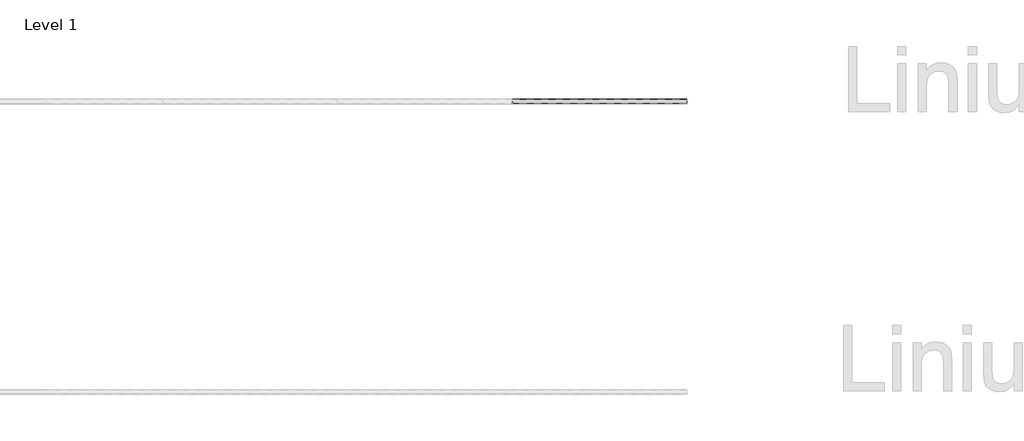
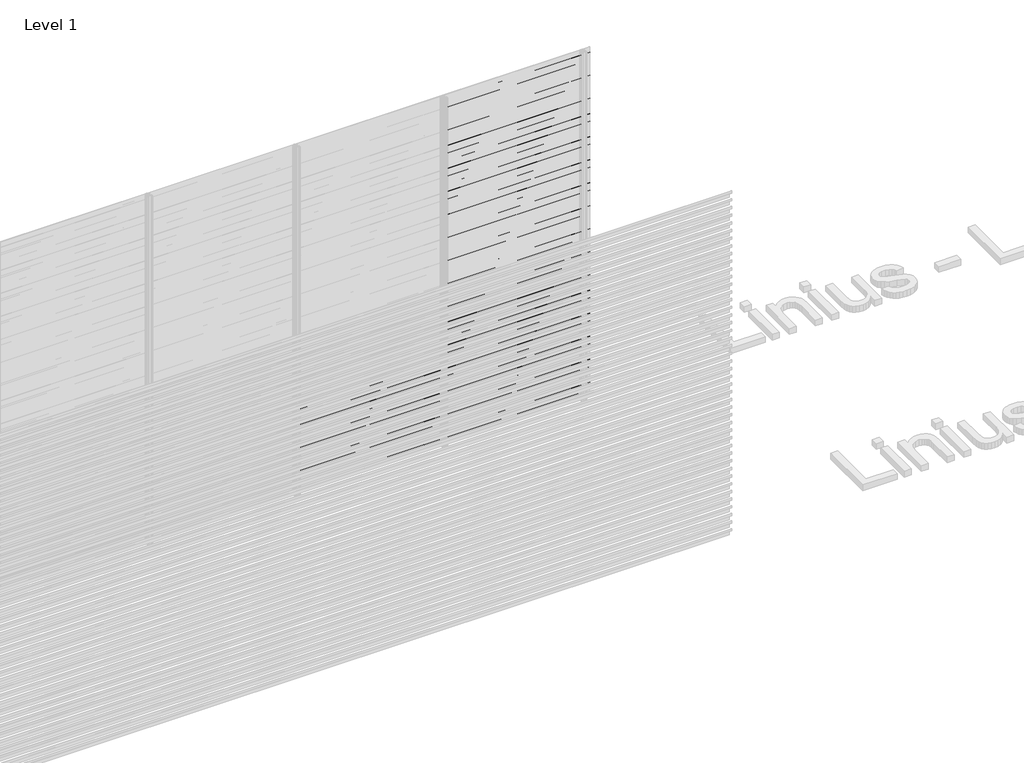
# One storey, part 61 of 540: 56 proxies.
"""IFC4 building model written with IfcOpenShell, lengths in millimetres."""

from ifc_helpers import new_model, si_unit, frame, origin, place, context, project, spatial, polyline, outline, extrude, element, save

model = new_model("IFC4")

# Units and contexts
model_context = context("Model", 3, world=origin())
ifc_project = project(units=[si_unit("LENGTHUNIT", "METRE", prefix="MILLI")], contexts=[model_context])

# Site, building, storey
site = spatial("IfcSite", under=ifc_project)
building = spatial("IfcBuilding", under=site)
storey = spatial("IfcBuildingStorey", under=building, Name="Level 1", Elevation=0.0)

# Proxies
placement = place(None, origin())
element("IfcBuildingElementProxy", 1, Name="Wall Sweeps", at=placement, inside=storey, context=model_context, shape_type="SweptSolid", body=[
    extrude(outline(polyline([(21552.8040136, 686.0), (21552.8040136, 653.0), (21551.5540136, 653.7216933), (21551.5540136, 685.2872415), (21521.8040136, 706.0588647), (21521.8040136, 726.0), (21523.0540136, 726.0), (21523.0540136, 706.7716232), (21552.8040136, 686.0)])), frame((48566.6208097, 0.0, 0.0), z_axis=(1.0, 0.0, 0.0), x_axis=(0.0, 1.0, 0.0)), (0.0, 0.0, 1.0), 1200.0),
])
element("IfcBuildingElementProxy", 2, Name="Wall Sweeps", at=placement, inside=storey, context=model_context, shape_type="SweptSolid", body=[
    extrude(outline(polyline([(21552.8040136, 620.0), (21552.8040136, 587.0), (21551.5540136, 587.7216933), (21551.5540136, 619.2872415), (21521.8040136, 640.0588647), (21521.8040136, 660.0), (21523.0540136, 660.0), (21523.0540136, 640.7716232), (21552.8040136, 620.0)])), frame((48566.6208097, 0.0, 0.0), z_axis=(1.0, 0.0, 0.0), x_axis=(0.0, 1.0, 0.0)), (0.0, 0.0, 1.0), 1200.0),
])
element("IfcBuildingElementProxy", 3, Name="Wall Sweeps", at=placement, inside=storey, context=model_context, shape_type="SweptSolid", body=[
    extrude(outline(polyline([(21552.8040136, 554.0), (21552.8040136, 521.0), (21551.5540136, 521.7216933), (21551.5540136, 553.2872415), (21521.8040136, 574.0588647), (21521.8040136, 594.0), (21523.0540136, 594.0), (21523.0540136, 574.7716232), (21552.8040136, 554.0)])), frame((48566.6208097, 0.0, 0.0), z_axis=(1.0, 0.0, 0.0), x_axis=(0.0, 1.0, 0.0)), (0.0, 0.0, 1.0), 1200.0),
])
element("IfcBuildingElementProxy", 4, Name="Wall Sweeps", at=placement, inside=storey, context=model_context, shape_type="SweptSolid", body=[
    extrude(outline(polyline([(21552.8040136, 488.0), (21552.8040136, 455.0), (21551.5540136, 455.7216933), (21551.5540136, 487.2872415), (21521.8040136, 508.0588647), (21521.8040136, 528.0), (21523.0540136, 528.0), (21523.0540136, 508.7716232), (21552.8040136, 488.0)])), frame((48566.6208097, 0.0, 0.0), z_axis=(1.0, 0.0, 0.0), x_axis=(0.0, 1.0, 0.0)), (0.0, 0.0, 1.0), 1200.0),
])
element("IfcBuildingElementProxy", 5, Name="Wall Sweeps", at=placement, inside=storey, context=model_context, shape_type="SweptSolid", body=[
    extrude(outline(polyline([(21552.8040136, 422.0), (21552.8040136, 389.0), (21551.5540136, 389.7216933), (21551.5540136, 421.2872415), (21521.8040136, 442.0588647), (21521.8040136, 462.0), (21523.0540136, 462.0), (21523.0540136, 442.7716232), (21552.8040136, 422.0)])), frame((48566.6208097, 0.0, 0.0), z_axis=(1.0, 0.0, 0.0), x_axis=(0.0, 1.0, 0.0)), (0.0, 0.0, 1.0), 1200.0),
])
element("IfcBuildingElementProxy", 6, Name="Wall Sweeps", at=placement, inside=storey, context=model_context, shape_type="SweptSolid", body=[
    extrude(outline(polyline([(21552.8040136, 356.0), (21552.8040136, 323.0), (21551.5540136, 323.7216933), (21551.5540136, 355.2872415), (21521.8040136, 376.0588647), (21521.8040136, 396.0), (21523.0540136, 396.0), (21523.0540136, 376.7716232), (21552.8040136, 356.0)])), frame((48566.6208097, 0.0, 0.0), z_axis=(1.0, 0.0, 0.0), x_axis=(0.0, 1.0, 0.0)), (0.0, 0.0, 1.0), 1200.0),
])
element("IfcBuildingElementProxy", 7, Name="Wall Sweeps", at=placement, inside=storey, context=model_context, shape_type="SweptSolid", body=[
    extrude(outline(polyline([(21552.8040136, 290.0), (21552.8040136, 257.0), (21551.5540136, 257.7216933), (21551.5540136, 289.2872415), (21521.8040136, 310.0588647), (21521.8040136, 330.0), (21523.0540136, 330.0), (21523.0540136, 310.7716232), (21552.8040136, 290.0)])), frame((48566.6208097, 0.0, 0.0), z_axis=(1.0, 0.0, 0.0), x_axis=(0.0, 1.0, 0.0)), (0.0, 0.0, 1.0), 1200.0),
])
element("IfcBuildingElementProxy", 8, Name="Wall Sweeps", at=placement, inside=storey, context=model_context, shape_type="SweptSolid", body=[
    extrude(outline(polyline([(21552.8040136, 224.0), (21552.8040136, 191.0), (21551.5540136, 191.7216933), (21551.5540136, 223.2872415), (21521.8040136, 244.0588647), (21521.8040136, 264.0), (21523.0540136, 264.0), (21523.0540136, 244.7716232), (21552.8040136, 224.0)])), frame((48566.6208097, 0.0, 0.0), z_axis=(1.0, 0.0, 0.0), x_axis=(0.0, 1.0, 0.0)), (0.0, 0.0, 1.0), 1200.0),
])
element("IfcBuildingElementProxy", 9, Name="Wall Sweeps", at=placement, inside=storey, context=model_context, shape_type="SweptSolid", body=[
    extrude(outline(polyline([(21552.8040136, 158.0), (21552.8040136, 125.0), (21551.5540136, 125.7216933), (21551.5540136, 157.2872415), (21521.8040136, 178.0588647), (21521.8040136, 198.0), (21523.0540136, 198.0), (21523.0540136, 178.7716232), (21552.8040136, 158.0)])), frame((48566.6208097, 0.0, 0.0), z_axis=(1.0, 0.0, 0.0), x_axis=(0.0, 1.0, 0.0)), (0.0, 0.0, 1.0), 1200.0),
])
element("IfcBuildingElementProxy", 10, Name="Wall Sweeps", at=placement, inside=storey, context=model_context, shape_type="SweptSolid", body=[
    extrude(outline(polyline([(21552.8040136, 92.0), (21552.8040136, 59.0), (21551.5540136, 59.7216933), (21551.5540136, 91.2872415), (21521.8040136, 112.0588647), (21521.8040136, 132.0), (21523.0540136, 132.0), (21523.0540136, 112.7716232), (21552.8040136, 92.0)])), frame((48566.6208097, 0.0, 0.0), z_axis=(1.0, 0.0, 0.0), x_axis=(0.0, 1.0, 0.0)), (0.0, 0.0, 1.0), 1200.0),
])
element("IfcBuildingElementProxy", 11, Name="Wall Sweeps", at=placement, inside=storey, context=model_context, shape_type="SweptSolid", body=[
    extrude(outline(polyline([(21552.8040136, 26.0), (21552.8040136, -7.0), (21551.5540136, -6.2783067), (21551.5540136, 25.2872415), (21521.8040136, 46.0588647), (21521.8040136, 66.0), (21523.0540136, 66.0), (21523.0540136, 46.7716232), (21552.8040136, 26.0)])), frame((48566.6208097, 0.0, 0.0), z_axis=(1.0, 0.0, 0.0), x_axis=(0.0, 1.0, 0.0)), (0.0, 0.0, 1.0), 1200.0),
])
element("IfcBuildingElementProxy", 12, Name="Wall Sweeps", at=placement, inside=storey, context=model_context, shape_type="SweptSolid", body=[
    extrude(outline(polyline([(21552.8040136, 2930.0), (21552.8040136, 2897.0), (21551.5540136, 2897.7216933), (21551.5540136, 2929.2872415), (21521.8040136, 2950.0588647), (21521.8040136, 2970.0), (21523.0540136, 2970.0), (21523.0540136, 2950.7716232), (21552.8040136, 2930.0)])), frame((49766.6208097, 0.0, 0.0), z_axis=(1.0, 0.0, 0.0), x_axis=(0.0, 1.0, 0.0)), (0.0, 0.0, 1.0), 1200.0),
])
element("IfcBuildingElementProxy", 13, Name="Wall Sweeps", at=placement, inside=storey, context=model_context, shape_type="SweptSolid", body=[
    extrude(outline(polyline([(21552.8040136, 2864.0), (21552.8040136, 2831.0), (21551.5540136, 2831.7216933), (21551.5540136, 2863.2872415), (21521.8040136, 2884.0588647), (21521.8040136, 2904.0), (21523.0540136, 2904.0), (21523.0540136, 2884.7716232), (21552.8040136, 2864.0)])), frame((49766.6208097, 0.0, 0.0), z_axis=(1.0, 0.0, 0.0), x_axis=(0.0, 1.0, 0.0)), (0.0, 0.0, 1.0), 1200.0),
])
element("IfcBuildingElementProxy", 14, Name="Wall Sweeps", at=placement, inside=storey, context=model_context, shape_type="SweptSolid", body=[
    extrude(outline(polyline([(21552.8040136, 2798.0), (21552.8040136, 2765.0), (21551.5540136, 2765.7216933), (21551.5540136, 2797.2872415), (21521.8040136, 2818.0588647), (21521.8040136, 2838.0), (21523.0540136, 2838.0), (21523.0540136, 2818.7716232), (21552.8040136, 2798.0)])), frame((49766.6208097, 0.0, 0.0), z_axis=(1.0, 0.0, 0.0), x_axis=(0.0, 1.0, 0.0)), (0.0, 0.0, 1.0), 1200.0),
])
element("IfcBuildingElementProxy", 15, Name="Wall Sweeps", at=placement, inside=storey, context=model_context, shape_type="SweptSolid", body=[
    extrude(outline(polyline([(21552.8040136, 2732.0), (21552.8040136, 2699.0), (21551.5540136, 2699.7216933), (21551.5540136, 2731.2872415), (21521.8040136, 2752.0588647), (21521.8040136, 2772.0), (21523.0540136, 2772.0), (21523.0540136, 2752.7716232), (21552.8040136, 2732.0)])), frame((49766.6208097, 0.0, 0.0), z_axis=(1.0, 0.0, 0.0), x_axis=(0.0, 1.0, 0.0)), (0.0, 0.0, 1.0), 1200.0),
])
element("IfcBuildingElementProxy", 16, Name="Wall Sweeps", at=placement, inside=storey, context=model_context, shape_type="SweptSolid", body=[
    extrude(outline(polyline([(21552.8040136, 2666.0), (21552.8040136, 2633.0), (21551.5540136, 2633.7216933), (21551.5540136, 2665.2872415), (21521.8040136, 2686.0588647), (21521.8040136, 2706.0), (21523.0540136, 2706.0), (21523.0540136, 2686.7716232), (21552.8040136, 2666.0)])), frame((49766.6208097, 0.0, 0.0), z_axis=(1.0, 0.0, 0.0), x_axis=(0.0, 1.0, 0.0)), (0.0, 0.0, 1.0), 1200.0),
])
element("IfcBuildingElementProxy", 17, Name="Wall Sweeps", at=placement, inside=storey, context=model_context, shape_type="SweptSolid", body=[
    extrude(outline(polyline([(21552.8040136, 2600.0), (21552.8040136, 2567.0), (21551.5540136, 2567.7216933), (21551.5540136, 2599.2872415), (21521.8040136, 2620.0588647), (21521.8040136, 2640.0), (21523.0540136, 2640.0), (21523.0540136, 2620.7716232), (21552.8040136, 2600.0)])), frame((49766.6208097, 0.0, 0.0), z_axis=(1.0, 0.0, 0.0), x_axis=(0.0, 1.0, 0.0)), (0.0, 0.0, 1.0), 1200.0),
])
element("IfcBuildingElementProxy", 18, Name="Wall Sweeps", at=placement, inside=storey, context=model_context, shape_type="SweptSolid", body=[
    extrude(outline(polyline([(21552.8040136, 2534.0), (21552.8040136, 2501.0), (21551.5540136, 2501.7216933), (21551.5540136, 2533.2872415), (21521.8040136, 2554.0588647), (21521.8040136, 2574.0), (21523.0540136, 2574.0), (21523.0540136, 2554.7716232), (21552.8040136, 2534.0)])), frame((49766.6208097, 0.0, 0.0), z_axis=(1.0, 0.0, 0.0), x_axis=(0.0, 1.0, 0.0)), (0.0, 0.0, 1.0), 1200.0),
])
element("IfcBuildingElementProxy", 19, Name="Wall Sweeps", at=placement, inside=storey, context=model_context, shape_type="SweptSolid", body=[
    extrude(outline(polyline([(21552.8040136, 2468.0), (21552.8040136, 2435.0), (21551.5540136, 2435.7216933), (21551.5540136, 2467.2872415), (21521.8040136, 2488.0588647), (21521.8040136, 2508.0), (21523.0540136, 2508.0), (21523.0540136, 2488.7716232), (21552.8040136, 2468.0)])), frame((49766.6208097, 0.0, 0.0), z_axis=(1.0, 0.0, 0.0), x_axis=(0.0, 1.0, 0.0)), (0.0, 0.0, 1.0), 1200.0),
])
element("IfcBuildingElementProxy", 20, Name="Wall Sweeps", at=placement, inside=storey, context=model_context, shape_type="SweptSolid", body=[
    extrude(outline(polyline([(21552.8040136, 2402.0), (21552.8040136, 2369.0), (21551.5540136, 2369.7216933), (21551.5540136, 2401.2872415), (21521.8040136, 2422.0588647), (21521.8040136, 2442.0), (21523.0540136, 2442.0), (21523.0540136, 2422.7716232), (21552.8040136, 2402.0)])), frame((49766.6208097, 0.0, 0.0), z_axis=(1.0, 0.0, 0.0), x_axis=(0.0, 1.0, 0.0)), (0.0, 0.0, 1.0), 1200.0),
])
element("IfcBuildingElementProxy", 21, Name="Wall Sweeps", at=placement, inside=storey, context=model_context, shape_type="SweptSolid", body=[
    extrude(outline(polyline([(21552.8040136, 2336.0), (21552.8040136, 2303.0), (21551.5540136, 2303.7216933), (21551.5540136, 2335.2872415), (21521.8040136, 2356.0588647), (21521.8040136, 2376.0), (21523.0540136, 2376.0), (21523.0540136, 2356.7716232), (21552.8040136, 2336.0)])), frame((49766.6208097, 0.0, 0.0), z_axis=(1.0, 0.0, 0.0), x_axis=(0.0, 1.0, 0.0)), (0.0, 0.0, 1.0), 1200.0),
])
element("IfcBuildingElementProxy", 22, Name="Wall Sweeps", at=placement, inside=storey, context=model_context, shape_type="SweptSolid", body=[
    extrude(outline(polyline([(21552.8040136, 2270.0), (21552.8040136, 2237.0), (21551.5540136, 2237.7216933), (21551.5540136, 2269.2872415), (21521.8040136, 2290.0588647), (21521.8040136, 2310.0), (21523.0540136, 2310.0), (21523.0540136, 2290.7716232), (21552.8040136, 2270.0)])), frame((49766.6208097, 0.0, 0.0), z_axis=(1.0, 0.0, 0.0), x_axis=(0.0, 1.0, 0.0)), (0.0, 0.0, 1.0), 1200.0),
])
element("IfcBuildingElementProxy", 23, Name="Wall Sweeps", at=placement, inside=storey, context=model_context, shape_type="SweptSolid", body=[
    extrude(outline(polyline([(21552.8040136, 2204.0), (21552.8040136, 2171.0), (21551.5540136, 2171.7216933), (21551.5540136, 2203.2872415), (21521.8040136, 2224.0588647), (21521.8040136, 2244.0), (21523.0540136, 2244.0), (21523.0540136, 2224.7716232), (21552.8040136, 2204.0)])), frame((49766.6208097, 0.0, 0.0), z_axis=(1.0, 0.0, 0.0), x_axis=(0.0, 1.0, 0.0)), (0.0, 0.0, 1.0), 1200.0),
])
element("IfcBuildingElementProxy", 24, Name="Wall Sweeps", at=placement, inside=storey, context=model_context, shape_type="SweptSolid", body=[
    extrude(outline(polyline([(21552.8040136, 2138.0), (21552.8040136, 2105.0), (21551.5540136, 2105.7216933), (21551.5540136, 2137.2872415), (21521.8040136, 2158.0588647), (21521.8040136, 2178.0), (21523.0540136, 2178.0), (21523.0540136, 2158.7716232), (21552.8040136, 2138.0)])), frame((49766.6208097, 0.0, 0.0), z_axis=(1.0, 0.0, 0.0), x_axis=(0.0, 1.0, 0.0)), (0.0, 0.0, 1.0), 1200.0),
])
element("IfcBuildingElementProxy", 25, Name="Wall Sweeps", at=placement, inside=storey, context=model_context, shape_type="SweptSolid", body=[
    extrude(outline(polyline([(21552.8040136, 2072.0), (21552.8040136, 2039.0), (21551.5540136, 2039.7216933), (21551.5540136, 2071.2872415), (21521.8040136, 2092.0588647), (21521.8040136, 2112.0), (21523.0540136, 2112.0), (21523.0540136, 2092.7716232), (21552.8040136, 2072.0)])), frame((49766.6208097, 0.0, 0.0), z_axis=(1.0, 0.0, 0.0), x_axis=(0.0, 1.0, 0.0)), (0.0, 0.0, 1.0), 1200.0),
])
element("IfcBuildingElementProxy", 26, Name="Wall Sweeps", at=placement, inside=storey, context=model_context, shape_type="SweptSolid", body=[
    extrude(outline(polyline([(21552.8040136, 2006.0), (21552.8040136, 1973.0), (21551.5540136, 1973.7216933), (21551.5540136, 2005.2872415), (21521.8040136, 2026.0588647), (21521.8040136, 2046.0), (21523.0540136, 2046.0), (21523.0540136, 2026.7716232), (21552.8040136, 2006.0)])), frame((49766.6208097, 0.0, 0.0), z_axis=(1.0, 0.0, 0.0), x_axis=(0.0, 1.0, 0.0)), (0.0, 0.0, 1.0), 1200.0),
])
element("IfcBuildingElementProxy", 27, Name="Wall Sweeps", at=placement, inside=storey, context=model_context, shape_type="SweptSolid", body=[
    extrude(outline(polyline([(21552.8040136, 1940.0), (21552.8040136, 1907.0), (21551.5540136, 1907.7216933), (21551.5540136, 1939.2872415), (21521.8040136, 1960.0588647), (21521.8040136, 1980.0), (21523.0540136, 1980.0), (21523.0540136, 1960.7716232), (21552.8040136, 1940.0)])), frame((49766.6208097, 0.0, 0.0), z_axis=(1.0, 0.0, 0.0), x_axis=(0.0, 1.0, 0.0)), (0.0, 0.0, 1.0), 1200.0),
])
element("IfcBuildingElementProxy", 28, Name="Wall Sweeps", at=placement, inside=storey, context=model_context, shape_type="SweptSolid", body=[
    extrude(outline(polyline([(21552.8040136, 1874.0), (21552.8040136, 1841.0), (21551.5540136, 1841.7216933), (21551.5540136, 1873.2872415), (21521.8040136, 1894.0588647), (21521.8040136, 1914.0), (21523.0540136, 1914.0), (21523.0540136, 1894.7716232), (21552.8040136, 1874.0)])), frame((49766.6208097, 0.0, 0.0), z_axis=(1.0, 0.0, 0.0), x_axis=(0.0, 1.0, 0.0)), (0.0, 0.0, 1.0), 1200.0),
])
element("IfcBuildingElementProxy", 29, Name="Wall Sweeps", at=placement, inside=storey, context=model_context, shape_type="SweptSolid", body=[
    extrude(outline(polyline([(21552.8040136, 1808.0), (21552.8040136, 1775.0), (21551.5540136, 1775.7216933), (21551.5540136, 1807.2872415), (21521.8040136, 1828.0588647), (21521.8040136, 1848.0), (21523.0540136, 1848.0), (21523.0540136, 1828.7716232), (21552.8040136, 1808.0)])), frame((49766.6208097, 0.0, 0.0), z_axis=(1.0, 0.0, 0.0), x_axis=(0.0, 1.0, 0.0)), (0.0, 0.0, 1.0), 1200.0),
])
element("IfcBuildingElementProxy", 30, Name="Wall Sweeps", at=placement, inside=storey, context=model_context, shape_type="SweptSolid", body=[
    extrude(outline(polyline([(21552.8040136, 1742.0), (21552.8040136, 1709.0), (21551.5540136, 1709.7216933), (21551.5540136, 1741.2872415), (21521.8040136, 1762.0588647), (21521.8040136, 1782.0), (21523.0540136, 1782.0), (21523.0540136, 1762.7716232), (21552.8040136, 1742.0)])), frame((49766.6208097, 0.0, 0.0), z_axis=(1.0, 0.0, 0.0), x_axis=(0.0, 1.0, 0.0)), (0.0, 0.0, 1.0), 1200.0),
])
element("IfcBuildingElementProxy", 31, Name="Wall Sweeps", at=placement, inside=storey, context=model_context, shape_type="SweptSolid", body=[
    extrude(outline(polyline([(21552.8040136, 1676.0), (21552.8040136, 1643.0), (21551.5540136, 1643.7216933), (21551.5540136, 1675.2872415), (21521.8040136, 1696.0588647), (21521.8040136, 1716.0), (21523.0540136, 1716.0), (21523.0540136, 1696.7716232), (21552.8040136, 1676.0)])), frame((49766.6208097, 0.0, 0.0), z_axis=(1.0, 0.0, 0.0), x_axis=(0.0, 1.0, 0.0)), (0.0, 0.0, 1.0), 1200.0),
])
element("IfcBuildingElementProxy", 32, Name="Wall Sweeps", at=placement, inside=storey, context=model_context, shape_type="SweptSolid", body=[
    extrude(outline(polyline([(21552.8040136, 1610.0), (21552.8040136, 1577.0), (21551.5540136, 1577.7216933), (21551.5540136, 1609.2872415), (21521.8040136, 1630.0588647), (21521.8040136, 1650.0), (21523.0540136, 1650.0), (21523.0540136, 1630.7716232), (21552.8040136, 1610.0)])), frame((49766.6208097, 0.0, 0.0), z_axis=(1.0, 0.0, 0.0), x_axis=(0.0, 1.0, 0.0)), (0.0, 0.0, 1.0), 1200.0),
])
element("IfcBuildingElementProxy", 33, Name="Wall Sweeps", at=placement, inside=storey, context=model_context, shape_type="SweptSolid", body=[
    extrude(outline(polyline([(21552.8040136, 1544.0), (21552.8040136, 1511.0), (21551.5540136, 1511.7216933), (21551.5540136, 1543.2872415), (21521.8040136, 1564.0588647), (21521.8040136, 1584.0), (21523.0540136, 1584.0), (21523.0540136, 1564.7716232), (21552.8040136, 1544.0)])), frame((49766.6208097, 0.0, 0.0), z_axis=(1.0, 0.0, 0.0), x_axis=(0.0, 1.0, 0.0)), (0.0, 0.0, 1.0), 1200.0),
])
element("IfcBuildingElementProxy", 34, Name="Wall Sweeps", at=placement, inside=storey, context=model_context, shape_type="SweptSolid", body=[
    extrude(outline(polyline([(21552.8040136, 1478.0), (21552.8040136, 1445.0), (21551.5540136, 1445.7216933), (21551.5540136, 1477.2872415), (21521.8040136, 1498.0588647), (21521.8040136, 1518.0), (21523.0540136, 1518.0), (21523.0540136, 1498.7716232), (21552.8040136, 1478.0)])), frame((49766.6208097, 0.0, 0.0), z_axis=(1.0, 0.0, 0.0), x_axis=(0.0, 1.0, 0.0)), (0.0, 0.0, 1.0), 1200.0),
])
element("IfcBuildingElementProxy", 35, Name="Wall Sweeps", at=placement, inside=storey, context=model_context, shape_type="SweptSolid", body=[
    extrude(outline(polyline([(21552.8040136, 1412.0), (21552.8040136, 1379.0), (21551.5540136, 1379.7216933), (21551.5540136, 1411.2872415), (21521.8040136, 1432.0588647), (21521.8040136, 1452.0), (21523.0540136, 1452.0), (21523.0540136, 1432.7716232), (21552.8040136, 1412.0)])), frame((49766.6208097, 0.0, 0.0), z_axis=(1.0, 0.0, 0.0), x_axis=(0.0, 1.0, 0.0)), (0.0, 0.0, 1.0), 1200.0),
])
element("IfcBuildingElementProxy", 36, Name="Wall Sweeps", at=placement, inside=storey, context=model_context, shape_type="SweptSolid", body=[
    extrude(outline(polyline([(21552.8040136, 1346.0), (21552.8040136, 1313.0), (21551.5540136, 1313.7216933), (21551.5540136, 1345.2872415), (21521.8040136, 1366.0588647), (21521.8040136, 1386.0), (21523.0540136, 1386.0), (21523.0540136, 1366.7716232), (21552.8040136, 1346.0)])), frame((49766.6208097, 0.0, 0.0), z_axis=(1.0, 0.0, 0.0), x_axis=(0.0, 1.0, 0.0)), (0.0, 0.0, 1.0), 1200.0),
])
element("IfcBuildingElementProxy", 37, Name="Wall Sweeps", at=placement, inside=storey, context=model_context, shape_type="SweptSolid", body=[
    extrude(outline(polyline([(21552.8040136, 1280.0), (21552.8040136, 1247.0), (21551.5540136, 1247.7216933), (21551.5540136, 1279.2872415), (21521.8040136, 1300.0588647), (21521.8040136, 1320.0), (21523.0540136, 1320.0), (21523.0540136, 1300.7716232), (21552.8040136, 1280.0)])), frame((49766.6208097, 0.0, 0.0), z_axis=(1.0, 0.0, 0.0), x_axis=(0.0, 1.0, 0.0)), (0.0, 0.0, 1.0), 1200.0),
])
element("IfcBuildingElementProxy", 38, Name="Wall Sweeps", at=placement, inside=storey, context=model_context, shape_type="SweptSolid", body=[
    extrude(outline(polyline([(21552.8040136, 1214.0), (21552.8040136, 1181.0), (21551.5540136, 1181.7216933), (21551.5540136, 1213.2872415), (21521.8040136, 1234.0588647), (21521.8040136, 1254.0), (21523.0540136, 1254.0), (21523.0540136, 1234.7716232), (21552.8040136, 1214.0)])), frame((49766.6208097, 0.0, 0.0), z_axis=(1.0, 0.0, 0.0), x_axis=(0.0, 1.0, 0.0)), (0.0, 0.0, 1.0), 1200.0),
])
element("IfcBuildingElementProxy", 39, Name="Wall Sweeps", at=placement, inside=storey, context=model_context, shape_type="SweptSolid", body=[
    extrude(outline(polyline([(21552.8040136, 1148.0), (21552.8040136, 1115.0), (21551.5540136, 1115.7216933), (21551.5540136, 1147.2872415), (21521.8040136, 1168.0588647), (21521.8040136, 1188.0), (21523.0540136, 1188.0), (21523.0540136, 1168.7716232), (21552.8040136, 1148.0)])), frame((49766.6208097, 0.0, 0.0), z_axis=(1.0, 0.0, 0.0), x_axis=(0.0, 1.0, 0.0)), (0.0, 0.0, 1.0), 1200.0),
])
element("IfcBuildingElementProxy", 40, Name="Wall Sweeps", at=placement, inside=storey, context=model_context, shape_type="SweptSolid", body=[
    extrude(outline(polyline([(21552.8040136, 1082.0), (21552.8040136, 1049.0), (21551.5540136, 1049.7216933), (21551.5540136, 1081.2872415), (21521.8040136, 1102.0588647), (21521.8040136, 1122.0), (21523.0540136, 1122.0), (21523.0540136, 1102.7716232), (21552.8040136, 1082.0)])), frame((49766.6208097, 0.0, 0.0), z_axis=(1.0, 0.0, 0.0), x_axis=(0.0, 1.0, 0.0)), (0.0, 0.0, 1.0), 1200.0),
])
element("IfcBuildingElementProxy", 41, Name="Wall Sweeps", at=placement, inside=storey, context=model_context, shape_type="SweptSolid", body=[
    extrude(outline(polyline([(21552.8040136, 1016.0), (21552.8040136, 983.0), (21551.5540136, 983.7216933), (21551.5540136, 1015.2872415), (21521.8040136, 1036.0588647), (21521.8040136, 1056.0), (21523.0540136, 1056.0), (21523.0540136, 1036.7716232), (21552.8040136, 1016.0)])), frame((49766.6208097, 0.0, 0.0), z_axis=(1.0, 0.0, 0.0), x_axis=(0.0, 1.0, 0.0)), (0.0, 0.0, 1.0), 1200.0),
])
element("IfcBuildingElementProxy", 42, Name="Wall Sweeps", at=placement, inside=storey, context=model_context, shape_type="SweptSolid", body=[
    extrude(outline(polyline([(21552.8040136, 950.0), (21552.8040136, 917.0), (21551.5540136, 917.7216933), (21551.5540136, 949.2872415), (21521.8040136, 970.0588647), (21521.8040136, 990.0), (21523.0540136, 990.0), (21523.0540136, 970.7716232), (21552.8040136, 950.0)])), frame((49766.6208097, 0.0, 0.0), z_axis=(1.0, 0.0, 0.0), x_axis=(0.0, 1.0, 0.0)), (0.0, 0.0, 1.0), 1200.0),
])
element("IfcBuildingElementProxy", 43, Name="Wall Sweeps", at=placement, inside=storey, context=model_context, shape_type="SweptSolid", body=[
    extrude(outline(polyline([(21552.8040136, 884.0), (21552.8040136, 851.0), (21551.5540136, 851.7216933), (21551.5540136, 883.2872415), (21521.8040136, 904.0588647), (21521.8040136, 924.0), (21523.0540136, 924.0), (21523.0540136, 904.7716232), (21552.8040136, 884.0)])), frame((49766.6208097, 0.0, 0.0), z_axis=(1.0, 0.0, 0.0), x_axis=(0.0, 1.0, 0.0)), (0.0, 0.0, 1.0), 1200.0),
])
element("IfcBuildingElementProxy", 44, Name="Wall Sweeps", at=placement, inside=storey, context=model_context, shape_type="SweptSolid", body=[
    extrude(outline(polyline([(21552.8040136, 818.0), (21552.8040136, 785.0), (21551.5540136, 785.7216933), (21551.5540136, 817.2872415), (21521.8040136, 838.0588647), (21521.8040136, 858.0), (21523.0540136, 858.0), (21523.0540136, 838.7716232), (21552.8040136, 818.0)])), frame((49766.6208097, 0.0, 0.0), z_axis=(1.0, 0.0, 0.0), x_axis=(0.0, 1.0, 0.0)), (0.0, 0.0, 1.0), 1200.0),
])
element("IfcBuildingElementProxy", 45, Name="Wall Sweeps", at=placement, inside=storey, context=model_context, shape_type="SweptSolid", body=[
    extrude(outline(polyline([(21552.8040136, 752.0), (21552.8040136, 719.0), (21551.5540136, 719.7216933), (21551.5540136, 751.2872415), (21521.8040136, 772.0588647), (21521.8040136, 792.0), (21523.0540136, 792.0), (21523.0540136, 772.7716232), (21552.8040136, 752.0)])), frame((49766.6208097, 0.0, 0.0), z_axis=(1.0, 0.0, 0.0), x_axis=(0.0, 1.0, 0.0)), (0.0, 0.0, 1.0), 1200.0),
])
element("IfcBuildingElementProxy", 46, Name="Wall Sweeps", at=placement, inside=storey, context=model_context, shape_type="SweptSolid", body=[
    extrude(outline(polyline([(21552.8040136, 686.0), (21552.8040136, 653.0), (21551.5540136, 653.7216933), (21551.5540136, 685.2872415), (21521.8040136, 706.0588647), (21521.8040136, 726.0), (21523.0540136, 726.0), (21523.0540136, 706.7716232), (21552.8040136, 686.0)])), frame((49766.6208097, 0.0, 0.0), z_axis=(1.0, 0.0, 0.0), x_axis=(0.0, 1.0, 0.0)), (0.0, 0.0, 1.0), 1200.0),
])
element("IfcBuildingElementProxy", 47, Name="Wall Sweeps", at=placement, inside=storey, context=model_context, shape_type="SweptSolid", body=[
    extrude(outline(polyline([(21552.8040136, 620.0), (21552.8040136, 587.0), (21551.5540136, 587.7216933), (21551.5540136, 619.2872415), (21521.8040136, 640.0588647), (21521.8040136, 660.0), (21523.0540136, 660.0), (21523.0540136, 640.7716232), (21552.8040136, 620.0)])), frame((49766.6208097, 0.0, 0.0), z_axis=(1.0, 0.0, 0.0), x_axis=(0.0, 1.0, 0.0)), (0.0, 0.0, 1.0), 1200.0),
])
element("IfcBuildingElementProxy", 48, Name="Wall Sweeps", at=placement, inside=storey, context=model_context, shape_type="SweptSolid", body=[
    extrude(outline(polyline([(21552.8040136, 554.0), (21552.8040136, 521.0), (21551.5540136, 521.7216933), (21551.5540136, 553.2872415), (21521.8040136, 574.0588647), (21521.8040136, 594.0), (21523.0540136, 594.0), (21523.0540136, 574.7716232), (21552.8040136, 554.0)])), frame((49766.6208097, 0.0, 0.0), z_axis=(1.0, 0.0, 0.0), x_axis=(0.0, 1.0, 0.0)), (0.0, 0.0, 1.0), 1200.0),
])
element("IfcBuildingElementProxy", 49, Name="Wall Sweeps", at=placement, inside=storey, context=model_context, shape_type="SweptSolid", body=[
    extrude(outline(polyline([(21552.8040136, 488.0), (21552.8040136, 455.0), (21551.5540136, 455.7216933), (21551.5540136, 487.2872415), (21521.8040136, 508.0588647), (21521.8040136, 528.0), (21523.0540136, 528.0), (21523.0540136, 508.7716232), (21552.8040136, 488.0)])), frame((49766.6208097, 0.0, 0.0), z_axis=(1.0, 0.0, 0.0), x_axis=(0.0, 1.0, 0.0)), (0.0, 0.0, 1.0), 1200.0),
])
element("IfcBuildingElementProxy", 50, Name="Wall Sweeps", at=placement, inside=storey, context=model_context, shape_type="SweptSolid", body=[
    extrude(outline(polyline([(21552.8040136, 422.0), (21552.8040136, 389.0), (21551.5540136, 389.7216933), (21551.5540136, 421.2872415), (21521.8040136, 442.0588647), (21521.8040136, 462.0), (21523.0540136, 462.0), (21523.0540136, 442.7716232), (21552.8040136, 422.0)])), frame((49766.6208097, 0.0, 0.0), z_axis=(1.0, 0.0, 0.0), x_axis=(0.0, 1.0, 0.0)), (0.0, 0.0, 1.0), 1200.0),
])
element("IfcBuildingElementProxy", 51, Name="Wall Sweeps", at=placement, inside=storey, context=model_context, shape_type="SweptSolid", body=[
    extrude(outline(polyline([(21552.8040136, 356.0), (21552.8040136, 323.0), (21551.5540136, 323.7216933), (21551.5540136, 355.2872415), (21521.8040136, 376.0588647), (21521.8040136, 396.0), (21523.0540136, 396.0), (21523.0540136, 376.7716232), (21552.8040136, 356.0)])), frame((49766.6208097, 0.0, 0.0), z_axis=(1.0, 0.0, 0.0), x_axis=(0.0, 1.0, 0.0)), (0.0, 0.0, 1.0), 1200.0),
])
element("IfcBuildingElementProxy", 52, Name="Wall Sweeps", at=placement, inside=storey, context=model_context, shape_type="SweptSolid", body=[
    extrude(outline(polyline([(21552.8040136, 290.0), (21552.8040136, 257.0), (21551.5540136, 257.7216933), (21551.5540136, 289.2872415), (21521.8040136, 310.0588647), (21521.8040136, 330.0), (21523.0540136, 330.0), (21523.0540136, 310.7716232), (21552.8040136, 290.0)])), frame((49766.6208097, 0.0, 0.0), z_axis=(1.0, 0.0, 0.0), x_axis=(0.0, 1.0, 0.0)), (0.0, 0.0, 1.0), 1200.0),
])
element("IfcBuildingElementProxy", 53, Name="Wall Sweeps", at=placement, inside=storey, context=model_context, shape_type="SweptSolid", body=[
    extrude(outline(polyline([(21552.8040136, 224.0), (21552.8040136, 191.0), (21551.5540136, 191.7216933), (21551.5540136, 223.2872415), (21521.8040136, 244.0588647), (21521.8040136, 264.0), (21523.0540136, 264.0), (21523.0540136, 244.7716232), (21552.8040136, 224.0)])), frame((49766.6208097, 0.0, 0.0), z_axis=(1.0, 0.0, 0.0), x_axis=(0.0, 1.0, 0.0)), (0.0, 0.0, 1.0), 1200.0),
])
element("IfcBuildingElementProxy", 54, Name="Wall Sweeps", at=placement, inside=storey, context=model_context, shape_type="SweptSolid", body=[
    extrude(outline(polyline([(21552.8040136, 158.0), (21552.8040136, 125.0), (21551.5540136, 125.7216933), (21551.5540136, 157.2872415), (21521.8040136, 178.0588647), (21521.8040136, 198.0), (21523.0540136, 198.0), (21523.0540136, 178.7716232), (21552.8040136, 158.0)])), frame((49766.6208097, 0.0, 0.0), z_axis=(1.0, 0.0, 0.0), x_axis=(0.0, 1.0, 0.0)), (0.0, 0.0, 1.0), 1200.0),
])
element("IfcBuildingElementProxy", 55, Name="Wall Sweeps", at=placement, inside=storey, context=model_context, shape_type="SweptSolid", body=[
    extrude(outline(polyline([(21552.8040136, 92.0), (21552.8040136, 59.0), (21551.5540136, 59.7216933), (21551.5540136, 91.2872415), (21521.8040136, 112.0588647), (21521.8040136, 132.0), (21523.0540136, 132.0), (21523.0540136, 112.7716232), (21552.8040136, 92.0)])), frame((49766.6208097, 0.0, 0.0), z_axis=(1.0, 0.0, 0.0), x_axis=(0.0, 1.0, 0.0)), (0.0, 0.0, 1.0), 1200.0),
])
element("IfcBuildingElementProxy", 56, Name="Wall Sweeps", at=placement, inside=storey, context=model_context, shape_type="SweptSolid", body=[
    extrude(outline(polyline([(21552.8040136, 26.0), (21552.8040136, -7.0), (21551.5540136, -6.2783067), (21551.5540136, 25.2872415), (21521.8040136, 46.0588647), (21521.8040136, 66.0), (21523.0540136, 66.0), (21523.0540136, 46.7716232), (21552.8040136, 26.0)])), frame((49766.6208097, 0.0, 0.0), z_axis=(1.0, 0.0, 0.0), x_axis=(0.0, 1.0, 0.0)), (0.0, 0.0, 1.0), 1200.0),
])

save(model, "model.ifc")
